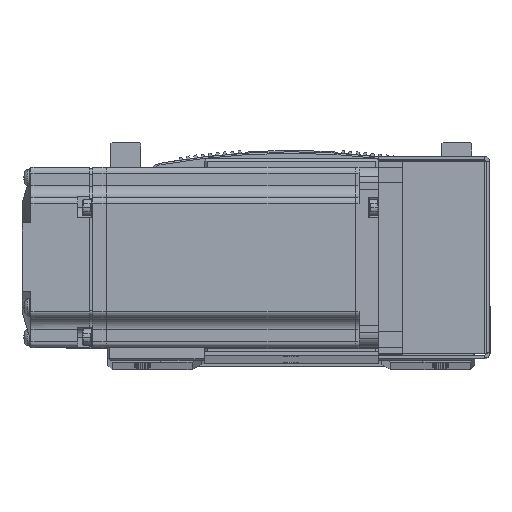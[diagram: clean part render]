
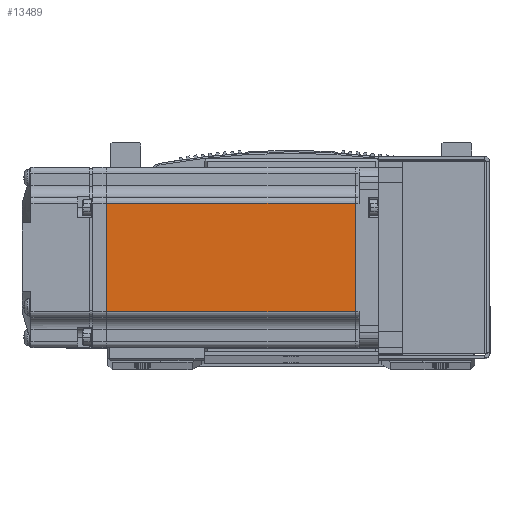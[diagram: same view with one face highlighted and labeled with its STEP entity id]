
A CAD part, top view. The second image highlights one B-rep face of the part: STEP entity #13489.
In plain terms, the highlighted planar face has unit normal (0, 0, 1) as drawn and (0, 1, 0) by its records, which use the part's own axes.
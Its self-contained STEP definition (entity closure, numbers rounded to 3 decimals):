
#13489 = ADVANCED_FACE ( 'NONE', ( #31342 ), #67460, .T. ) ;
#21674 = CARTESIAN_POINT ( 'NONE',  ( -90.45, 30., -18. ) ) ;
#21693 = CARTESIAN_POINT ( 'NONE',  ( -7.75, 30., -18. ) ) ;
#21732 = CARTESIAN_POINT ( 'NONE',  ( -90.45, 30., 18. ) ) ;
#21759 = CARTESIAN_POINT ( 'NONE',  ( -7.75, 30., 18. ) ) ;
#28945 = LINE ( 'NONE', #50618, #28969 ) ;
#28966 = LINE ( 'NONE', #50641, #28972 ) ;
#28969 = VECTOR ( 'NONE', #50642, 1000. ) ;
#28972 = VECTOR ( 'NONE', #50614, 1000. ) ;
#28991 = VECTOR ( 'NONE', #50691, 1000. ) ;
#29032 = LINE ( 'NONE', #50731, #28991 ) ;
#29068 = VECTOR ( 'NONE', #49110, 1000. ) ;
#29100 = LINE ( 'NONE', #49142, #29068 ) ;
#31342 = FACE_OUTER_BOUND ( 'NONE', #86603, .T. ) ;
#44548 = AXIS2_PLACEMENT_3D ( 'NONE', #67593, #67605, #67633 ) ;
#49110 = DIRECTION ( 'NONE',  ( 0., 0., 1. ) ) ;
#49142 = CARTESIAN_POINT ( 'NONE',  ( -90.45, 30., 0. ) ) ;
#50614 = DIRECTION ( 'NONE',  ( -1., 0., 0. ) ) ;
#50618 = CARTESIAN_POINT ( 'NONE',  ( -6.5, 30., 18. ) ) ;
#50641 = CARTESIAN_POINT ( 'NONE',  ( -6.5, 30., -18. ) ) ;
#50642 = DIRECTION ( 'NONE',  ( 1., 0., 0. ) ) ;
#50691 = DIRECTION ( 'NONE',  ( 0., 0., 1. ) ) ;
#50731 = CARTESIAN_POINT ( 'NONE',  ( -7.75, 30., 0. ) ) ;
#63898 = EDGE_CURVE ( 'NONE', #87118, #87106, #28966, .T. ) ;
#63900 = EDGE_CURVE ( 'NONE', #87174, #87170, #28945, .T. ) ;
#63928 = EDGE_CURVE ( 'NONE', #87118, #87170, #29032, .T. ) ;
#63984 = EDGE_CURVE ( 'NONE', #87106, #87174, #29100, .T. ) ;
#67460 = PLANE ( 'NONE',  #44548 ) ;
#67593 = CARTESIAN_POINT ( 'NONE',  ( -6.5, 30., 25. ) ) ;
#67605 = DIRECTION ( 'NONE',  ( 0., 1., 0. ) ) ;
#67633 = DIRECTION ( 'NONE',  ( 0., 0., 1. ) ) ;
#68622 = ORIENTED_EDGE ( 'NONE', *, *, #63984, .T. ) ;
#68623 = ORIENTED_EDGE ( 'NONE', *, *, #63900, .T. ) ;
#68629 = ORIENTED_EDGE ( 'NONE', *, *, #63928, .F. ) ;
#68653 = ORIENTED_EDGE ( 'NONE', *, *, #63898, .T. ) ;
#86603 = EDGE_LOOP ( 'NONE', ( #68629, #68653, #68622, #68623 ) ) ;
#87106 = VERTEX_POINT ( 'NONE', #21674 ) ;
#87118 = VERTEX_POINT ( 'NONE', #21693 ) ;
#87170 = VERTEX_POINT ( 'NONE', #21759 ) ;
#87174 = VERTEX_POINT ( 'NONE', #21732 ) ;
